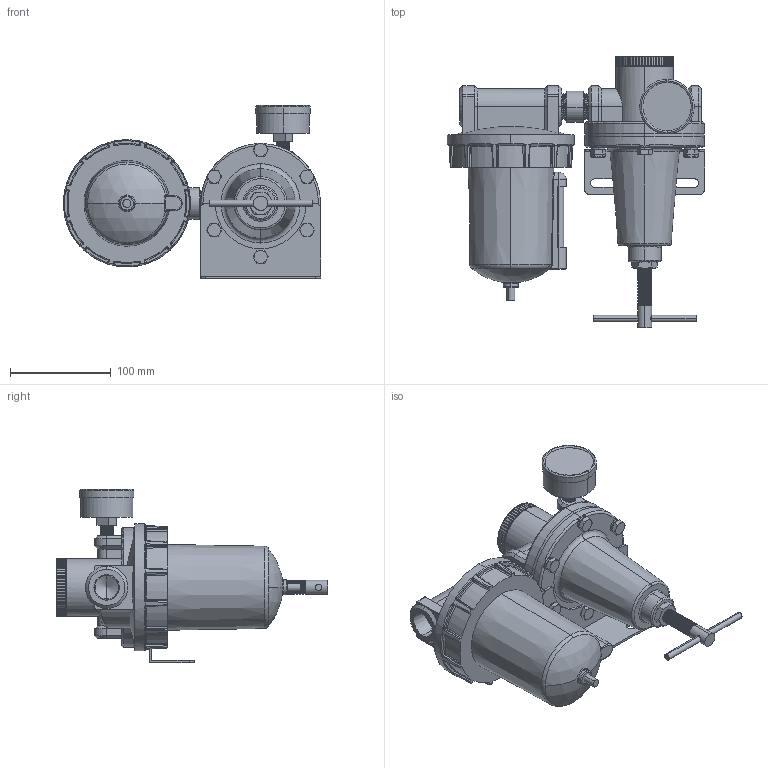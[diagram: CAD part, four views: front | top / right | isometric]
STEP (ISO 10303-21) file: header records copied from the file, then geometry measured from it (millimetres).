
FILE_DESCRIPTION (( 'STEP AP203' ), '1' );
FILE_NAME ('U628#W-06#YB#.STEP', '2016-01-14T17:26:41', ( '' ), ( '' ), 'SwSTEP 2.0', 'SolidWorks 2014', '' );
FILE_SCHEMA (( 'CONFIG_CONTROL_DESIGN' ));
Length unit declared in the file: millimetre
Products named in the file (19): 50-P-AD=1-4PT-1; L606-W-06-2; R119-06-6; R119-06; R119-06-7; 50-P-AD=1-4PT.SLDPRT; F602W-06; ISO 4014 - M8; F602W-06#YB#; R119-06-1; R119-06-3; U628#W-06#YB#; R119-06-4; R119-06-5; 50-P-AD=1-4PT-2; KW18B57; 3-4-圓; R119-06-2; L606-W-06-5
Assembly tree (23 placements, depth 4):
  U628#W-06#YB#
    F602W-06#YB#
      F602W-06
      L606-W-06-2
      L606-W-06-5
    R119-06
      R119-06-1
      R119-06-2
      R119-06-3
      R119-06-4
      R119-06-5
      R119-06-6
      ISO 4014 - M8  x6
      R119-06-7
      50-P-AD=1-4PT.SLDPRT
        50-P-AD=1-4PT-1
        50-P-AD=1-4PT-2
      KW18B57
    3-4-圓
Bounding box: 255 x 269 x 171.5 mm (x, y, z)
Volume: 2092025.1 mm3; surface area: 274097.6 mm2
Topology: 21 solids, 21 shells, 1216 faces, 2916 edges, 1718 vertices
Faces by surface type: plane 393, cylinder 324, cone 274, bspline 127, torus 69, sphere 29
Entity records: 51221 total; most frequent: CARTESIAN_POINT 26050, ORIENTED_EDGE 5132, DIRECTION 4514, EDGE_CURVE 2566, AXIS2_PLACEMENT_3D 1868, VERTEX_POINT 1547, EDGE_LOOP 1117, ADVANCED_FACE 1071
